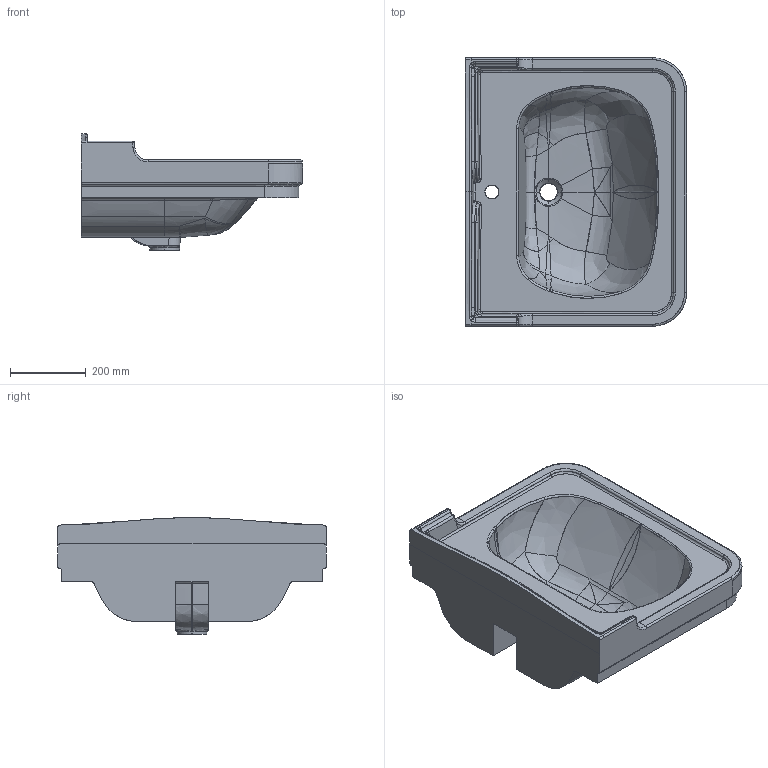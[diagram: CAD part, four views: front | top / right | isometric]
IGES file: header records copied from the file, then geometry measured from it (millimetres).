
Start section: START RECORD GO HERE.
Global section: file name: 8401_Lav Ethos 71 con colonna ART 811.igs; native system: DASSAULT SYSTEMES CATIA V5 R19 - www.3ds.com; preprocessor: 32HCATIA Version 5 Release 19 SP 5; author: gioge; organization: LAPTOP-G94B6G74; date: 20200630.144458; units: millimetre
Bounding box: 585 x 710 x 309.5 mm (x, y, z)
Surface area: 1478175.7 mm2 (no closed solid volume)
Topology: 0 solids, 0 shells, 372 faces, 1765 edges, 1739 vertices
Faces by surface type: bspline 236, revolution 89, plane 30, extrusion 17
